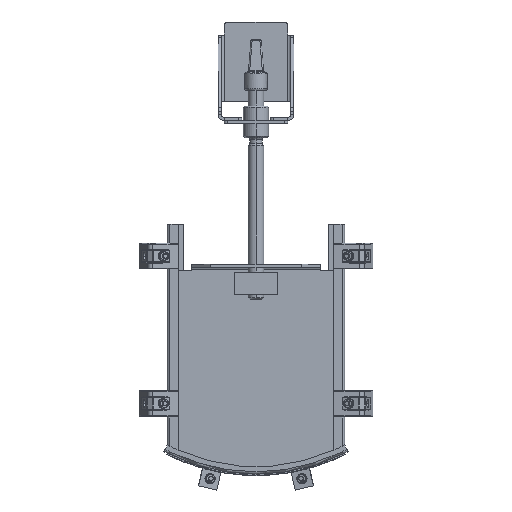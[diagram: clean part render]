
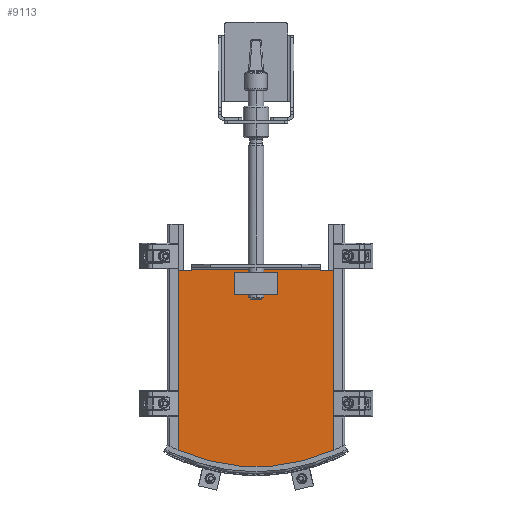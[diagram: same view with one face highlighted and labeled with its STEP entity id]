
A CAD part, top view. The second image highlights one B-rep face of the part: STEP entity #9113.
In plain terms, the highlighted planar face has unit normal (0, 0, 1).
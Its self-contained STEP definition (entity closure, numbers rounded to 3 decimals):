
#294 = DIRECTION ( 'NONE',  ( 1., 0., 0. ) ) ;
#542 = DIRECTION ( 'NONE',  ( 1., 0., 0. ) ) ;
#1033 = ORIENTED_EDGE ( 'NONE', *, *, #39338, .F. ) ;
#1058 = VECTOR ( 'NONE', #31032, 1000. ) ;
#1848 = EDGE_CURVE ( 'NONE', #13688, #31618, #3687, .T. ) ;
#1893 = AXIS2_PLACEMENT_3D ( 'NONE', #10131, #9703, #20140 ) ;
#1990 = VECTOR ( 'NONE', #4446, 1000. ) ;
#3094 = LINE ( 'NONE', #6067, #17391 ) ;
#3115 = VERTEX_POINT ( 'NONE', #31519 ) ;
#3570 = CARTESIAN_POINT ( 'NONE',  ( -104., 310., 33. ) ) ;
#3660 = LINE ( 'NONE', #10221, #8302 ) ;
#3687 = LINE ( 'NONE', #29571, #28523 ) ;
#4081 = CARTESIAN_POINT ( 'NONE',  ( -104., 312., 33. ) ) ;
#4210 = ORIENTED_EDGE ( 'NONE', *, *, #21997, .T. ) ;
#4446 = DIRECTION ( 'NONE',  ( -1., 0., 0. ) ) ;
#6067 = CARTESIAN_POINT ( 'NONE',  ( 122.995, -36.71, 33. ) ) ;
#6249 = DIRECTION ( 'NONE',  ( 0., 0., 1. ) ) ;
#6403 = AXIS2_PLACEMENT_3D ( 'NONE', #4081, #20249, #39251 ) ;
#6901 = EDGE_CURVE ( 'NONE', #40971, #3115, #18061, .T. ) ;
#7167 = VERTEX_POINT ( 'NONE', #28582 ) ;
#7792 = EDGE_CURVE ( 'NONE', #29125, #7167, #8034, .T. ) ;
#7807 = CARTESIAN_POINT ( 'NONE',  ( 123.172, 310., 33. ) ) ;
#7956 = CARTESIAN_POINT ( 'NONE',  ( 104., 312., 33. ) ) ;
#8034 = LINE ( 'NONE', #7807, #1990 ) ;
#8045 = ORIENTED_EDGE ( 'NONE', *, *, #7792, .T. ) ;
#8302 = VECTOR ( 'NONE', #294, 1000. ) ;
#8352 = ORIENTED_EDGE ( 'NONE', *, *, #6901, .T. ) ;
#8865 = CARTESIAN_POINT ( 'NONE',  ( -123.172, 310., 33. ) ) ;
#8934 = CARTESIAN_POINT ( 'NONE',  ( 34., 272.5, 33. ) ) ;
#9113 = ADVANCED_FACE ( 'NONE', ( #26456, #24549 ), #31732, .T. ) ;
#9293 = ORIENTED_EDGE ( 'NONE', *, *, #11252, .T. ) ;
#9432 = DIRECTION ( 'NONE',  ( 0., 1., 0. ) ) ;
#9703 = DIRECTION ( 'NONE',  ( 0., 0., 1. ) ) ;
#10131 = CARTESIAN_POINT ( 'NONE',  ( 0., 300., 33. ) ) ;
#10221 = CARTESIAN_POINT ( 'NONE',  ( -34., 272.5, 33. ) ) ;
#11252 = EDGE_CURVE ( 'NONE', #13688, #40971, #27422, .T. ) ;
#11867 = CARTESIAN_POINT ( 'NONE',  ( -34., 272.5, 33. ) ) ;
#12245 = ORIENTED_EDGE ( 'NONE', *, *, #1848, .F. ) ;
#12605 = EDGE_CURVE ( 'NONE', #38174, #3115, #28713, .T. ) ;
#13535 = ORIENTED_EDGE ( 'NONE', *, *, #12605, .F. ) ;
#13606 = AXIS2_PLACEMENT_3D ( 'NONE', #34654, #6249, #37634 ) ;
#13688 = VERTEX_POINT ( 'NONE', #30314 ) ;
#14071 = CARTESIAN_POINT ( 'NONE',  ( -34., 307.5, 33. ) ) ;
#14798 = EDGE_CURVE ( 'NONE', #35846, #29125, #3094, .T. ) ;
#16420 = EDGE_CURVE ( 'NONE', #40046, #38325, #33981, .T. ) ;
#16583 = ORIENTED_EDGE ( 'NONE', *, *, #14798, .T. ) ;
#16973 = CARTESIAN_POINT ( 'NONE',  ( 34., 307.5, 33. ) ) ;
#17391 = VECTOR ( 'NONE', #9432, 1000. ) ;
#17572 = CARTESIAN_POINT ( 'NONE',  ( 122.995, 26.372, 33. ) ) ;
#17924 = LINE ( 'NONE', #31443, #1058 ) ;
#17928 = LINE ( 'NONE', #14071, #41492 ) ;
#18061 = LINE ( 'NONE', #8865, #37015 ) ;
#19628 = VERTEX_POINT ( 'NONE', #11867 ) ;
#20140 = DIRECTION ( 'NONE',  ( 1., 0., 0. ) ) ;
#20165 = DIRECTION ( 'NONE',  ( 1., 0., 0. ) ) ;
#20249 = DIRECTION ( 'NONE',  ( 0., 0., -1. ) ) ;
#21997 = EDGE_CURVE ( 'NONE', #38174, #35846, #38385, .T. ) ;
#22409 = CARTESIAN_POINT ( 'NONE',  ( 122.995, 310., 33. ) ) ;
#22670 = CARTESIAN_POINT ( 'NONE',  ( -34., 307.5, 33. ) ) ;
#24114 = VECTOR ( 'NONE', #28509, 1000. ) ;
#24144 = AXIS2_PLACEMENT_3D ( 'NONE', #7956, #32663, #20165 ) ;
#24271 = DIRECTION ( 'NONE',  ( 0., -1., 0. ) ) ;
#24494 = ORIENTED_EDGE ( 'NONE', *, *, #32104, .F. ) ;
#24549 = FACE_BOUND ( 'NONE', #36452, .T. ) ;
#25449 = DIRECTION ( 'NONE',  ( -1., 0., 0. ) ) ;
#25735 = ORIENTED_EDGE ( 'NONE', *, *, #16420, .F. ) ;
#26456 = FACE_OUTER_BOUND ( 'NONE', #32515, .T. ) ;
#27422 = CIRCLE ( 'NONE', #6403, 2. ) ;
#28509 = DIRECTION ( 'NONE',  ( 0., 1., 0. ) ) ;
#28523 = VECTOR ( 'NONE', #542, 1000. ) ;
#28582 = CARTESIAN_POINT ( 'NONE',  ( 104., 310., 33. ) ) ;
#28713 = LINE ( 'NONE', #38826, #24114 ) ;
#29125 = VERTEX_POINT ( 'NONE', #22409 ) ;
#29571 = CARTESIAN_POINT ( 'NONE',  ( -130., 312., 33. ) ) ;
#30314 = CARTESIAN_POINT ( 'NONE',  ( -102., 312., 33. ) ) ;
#31032 = DIRECTION ( 'NONE',  ( 0., 1., 0. ) ) ;
#31443 = CARTESIAN_POINT ( 'NONE',  ( 34., 307.5, 33. ) ) ;
#31519 = CARTESIAN_POINT ( 'NONE',  ( -122.995, 310., 33. ) ) ;
#31618 = VERTEX_POINT ( 'NONE', #40597 ) ;
#31732 = PLANE ( 'NONE',  #13606 ) ;
#32104 = EDGE_CURVE ( 'NONE', #19628, #39410, #3660, .T. ) ;
#32515 = EDGE_LOOP ( 'NONE', ( #13535, #4210, #16583, #8045, #33206, #12245, #9293, #8352 ) ) ;
#32663 = DIRECTION ( 'NONE',  ( 0., 0., -1. ) ) ;
#33206 = ORIENTED_EDGE ( 'NONE', *, *, #33634, .T. ) ;
#33634 = EDGE_CURVE ( 'NONE', #7167, #31618, #41675, .T. ) ;
#33981 = LINE ( 'NONE', #40932, #41291 ) ;
#34543 = CARTESIAN_POINT ( 'NONE',  ( -122.995, 26.372, 33. ) ) ;
#34654 = CARTESIAN_POINT ( 'NONE',  ( -130., 31.851, 33. ) ) ;
#34943 = ORIENTED_EDGE ( 'NONE', *, *, #41252, .F. ) ;
#35846 = VERTEX_POINT ( 'NONE', #17572 ) ;
#36452 = EDGE_LOOP ( 'NONE', ( #24494, #1033, #25735, #34943 ) ) ;
#37015 = VECTOR ( 'NONE', #25449, 1000. ) ;
#37634 = DIRECTION ( 'NONE',  ( 1., 0., 0. ) ) ;
#38174 = VERTEX_POINT ( 'NONE', #34543 ) ;
#38325 = VERTEX_POINT ( 'NONE', #22670 ) ;
#38385 = CIRCLE ( 'NONE', #1893, 300. ) ;
#38826 = CARTESIAN_POINT ( 'NONE',  ( -122.995, 31.851, 33. ) ) ;
#39251 = DIRECTION ( 'NONE',  ( 1., 0., 0. ) ) ;
#39338 = EDGE_CURVE ( 'NONE', #38325, #19628, #17928, .T. ) ;
#39410 = VERTEX_POINT ( 'NONE', #8934 ) ;
#40046 = VERTEX_POINT ( 'NONE', #16973 ) ;
#40316 = DIRECTION ( 'NONE',  ( -1., 0., 0. ) ) ;
#40597 = CARTESIAN_POINT ( 'NONE',  ( 102., 312., 33. ) ) ;
#40932 = CARTESIAN_POINT ( 'NONE',  ( -34., 307.5, 33. ) ) ;
#40971 = VERTEX_POINT ( 'NONE', #3570 ) ;
#41252 = EDGE_CURVE ( 'NONE', #39410, #40046, #17924, .T. ) ;
#41291 = VECTOR ( 'NONE', #40316, 1000. ) ;
#41492 = VECTOR ( 'NONE', #24271, 1000. ) ;
#41675 = CIRCLE ( 'NONE', #24144, 2. ) ;
